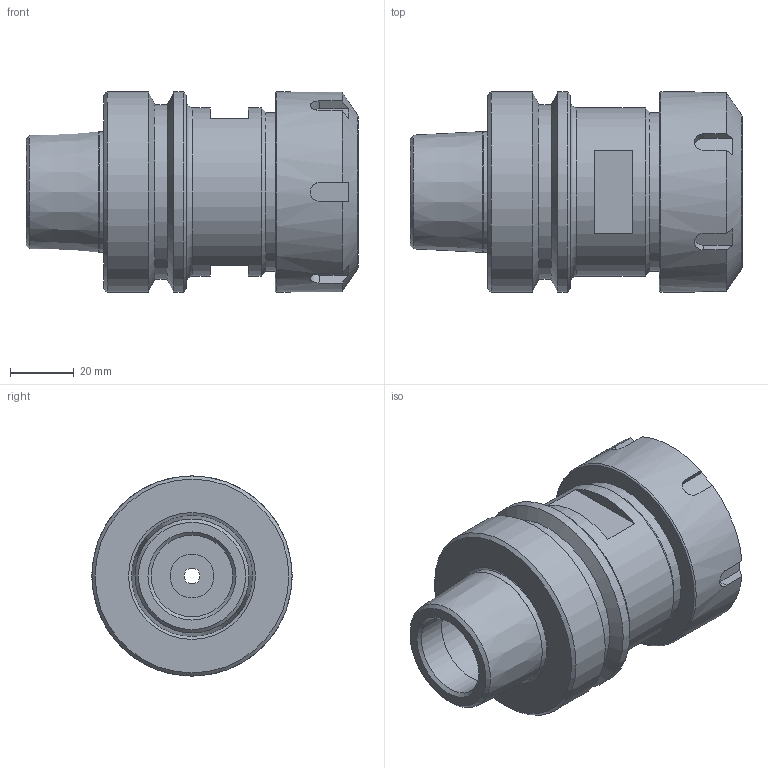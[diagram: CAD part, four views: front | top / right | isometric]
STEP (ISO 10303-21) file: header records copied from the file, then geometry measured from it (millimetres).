
FILE_DESCRIPTION(/* description */ (''),/* implementation_level */ '2;1');
FILE_NAME(/* name */ 'HSK63F-ER40-75.stp',/* time_stamp */ '2025-09-29T13:51:47+03:00',/* author */ ('User'),/* organization */ (''),/* preprocessor_version */ 'ST-DEVELOPER v19.2',/* originating_system */ 'Autodesk Inventor 2024',/* authorisation */ '');
FILE_SCHEMA (('AUTOMOTIVE_DESIGN { 1 0 10303 214 3 1 1 }'));
Length unit declared in the file: millimetre
Products named in the file (3): HSK63A-ER40-75; ER25-M; HSK63A-ER40-75_1
Assembly tree (2 placements, depth 2):
  HSK63A-ER40-75
    ER25-M
    HSK63A-ER40-75_1
Bounding box: 104.5 x 63 x 63 mm (x, y, z)
Volume: 161099 mm3; surface area: 44029 mm2
Topology: 2 solids, 2 shells, 82 faces, 188 edges, 124 vertices
Faces by surface type: plane 40, cylinder 22, cone 17, torus 3
Full cylindrical faces by diameter (mm): 5 x1, 13.835 x1, 25.71 x2, 29.71 x1, 32.724 x1, 37.9 x1, 40 x1, 48.5 x2, 50 x1, 53 x1, 55 x1, 63 x3
Entity records: 2591 total; most frequent: CARTESIAN_POINT 546, DIRECTION 413, ORIENTED_EDGE 376, EDGE_CURVE 188, AXIS2_PLACEMENT_3D 168, VERTEX_POINT 124, EDGE_LOOP 100, FACE_OUTER_BOUND 82
